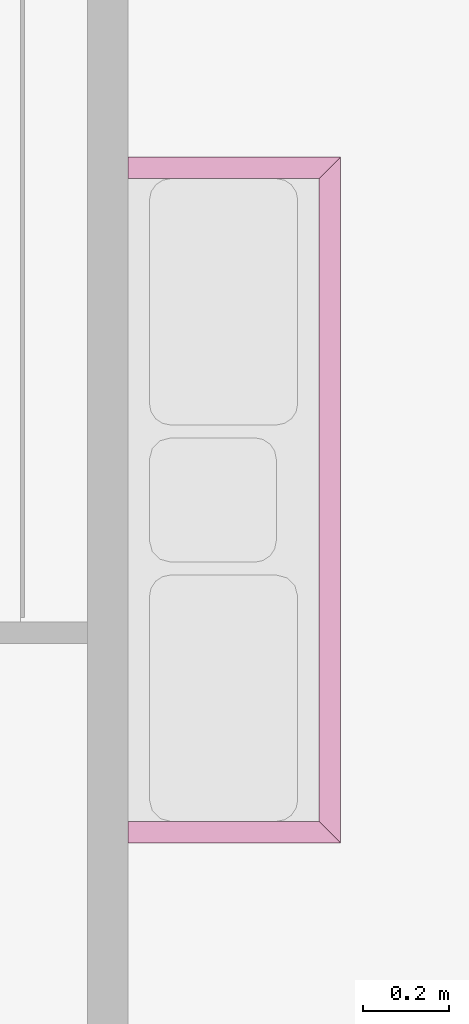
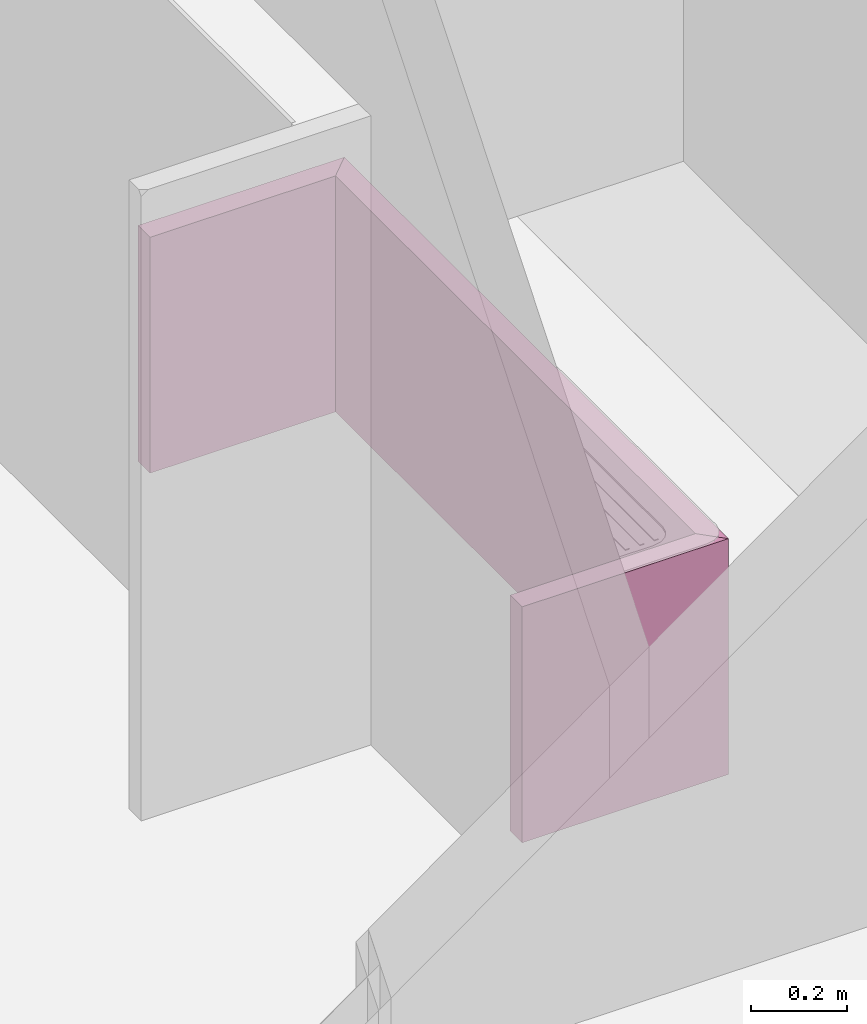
# One storey, part 8 of 14: 3 furnishings.
"""IFC2X3 building model written with IfcOpenShell, lengths in millimetres."""

from ifc_helpers import new_model, entity, si_unit, converted_unit, direction, frame, origin_with_axes, place, context, project, spatial, polyline, outline, extrude, material, type_object, element, save


model = new_model("IFC2X3")

# Units and contexts
model_context = context("Model", 3, precision=1e-05, world=origin_with_axes(), true_north=direction((0.0, 1.0)))
ifc_project = project(units=[si_unit("LENGTHUNIT", "METRE", prefix="MILLI"), si_unit("AREAUNIT", "SQUARE_METRE"), si_unit("VOLUMEUNIT", "CUBIC_METRE"), converted_unit("PLANEANGLEUNIT", "DEGREE", entity("IfcPlaneAngleMeasure", 0.017453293), si_unit("PLANEANGLEUNIT", "RADIAN"), dimensions=[0, 0, 0, 0, 0, 0, 0]), si_unit("SOLIDANGLEUNIT", "STERADIAN"), si_unit("MASSUNIT", "GRAM"), si_unit("TIMEUNIT", "SECOND"), si_unit("THERMODYNAMICTEMPERATUREUNIT", "DEGREE_CELSIUS"), si_unit("LUMINOUSINTENSITYUNIT", "LUMEN")], contexts=[model_context])

# Site, building, storey
site_placement = place(None, origin_with_axes())
site = spatial("IfcSite", under=ifc_project, at=site_placement, Name="\x83T\x83C\x83g", CompositionType="ELEMENT")
building_placement = place(site_placement, origin_with_axes())
building = spatial("IfcBuilding", under=site, at=building_placement, Name="Daitec-Sample 201208", CompositionType="ELEMENT")
storey_placement = place(building_placement, frame((0.0, 0.0, 8000.0), z_axis=(0.0, 0.0, 1.0), x_axis=(1.0, 0.0, 0.0)))
storey = spatial("IfcBuildingStorey", under=building, at=storey_placement, Name="3F", CompositionType="ELEMENT", Elevation=8000.0)

# Furnishings
ifc_material_1 = material()
furniture_type_1 = type_object("IfcFurnitureType", AssemblyPlace="NOTDEFINED")
furnishing_1_placement = place(storey_placement, frame((23667.276, 21024.447, 0.0), z_axis=(0.0, 0.0, 1.0), x_axis=(0.0, 1.0, 0.0)))
element("IfcFurnishingElement", 1, at=furnishing_1_placement, inside=storey, type_object=furniture_type_1, material=ifc_material_1, Name="W4", context=model_context, shape_type="SweptSolid", body=[
    extrude(outline(polyline([(0.0, 0.0), (1600.0, 0.0), (1550.0, 50.0), (50.0, 50.0), (0.0, 0.0)])), origin_with_axes(), (0.0, 0.0, 1.0), 600.0),
])
furnishing_2_placement = place(storey_placement, frame((23667.276, 21024.447, 0.0), z_axis=(0.0, 0.0, 1.0), x_axis=(-1.0, 0.0, 0.0)))
element("IfcFurnishingElement", 2, at=furnishing_2_placement, inside=storey, type_object=furniture_type_1, material=ifc_material_1, Name="W5", context=model_context, shape_type="SweptSolid", body=[
    extrude(outline(polyline([(50.0, -50.0), (496.05787, -50.0), (496.05787, 0.0), (0.0, 0.0), (50.0, -50.0)])), origin_with_axes(), (0.0, 0.0, 1.0), 600.0),
])
ifc_material_2 = material(Name="\x83R\x83\x93\x83N\x83\x8a\x81[\x83g-\x8cy\x97Ê")
furniture_type_2 = type_object("IfcFurnitureType", Name="\x83R\x83\x93\x83N\x83\x8a\x81[\x83g-\x8cy\x97Ê 50", AssemblyPlace="NOTDEFINED")
furnishing_3_placement = place(storey_placement, frame((23667.276, 22624.447, 0.0), z_axis=(0.0, 0.0, 1.0), x_axis=(-1.0, 0.0, 0.0)))
element("IfcFurnishingElement", 3, at=furnishing_3_placement, inside=storey, type_object=furniture_type_2, material=ifc_material_2, Name="W6", context=model_context, shape_type="SweptSolid", body=[
    extrude(outline(polyline([(0.0, 0.0), (496.05787, 0.0), (496.05787, 50.0), (50.0, 50.0), (0.0, 0.0)])), origin_with_axes(), (0.0, 0.0, 1.0), 600.0),
])

save(model, "model.ifc")
